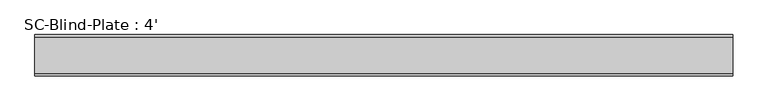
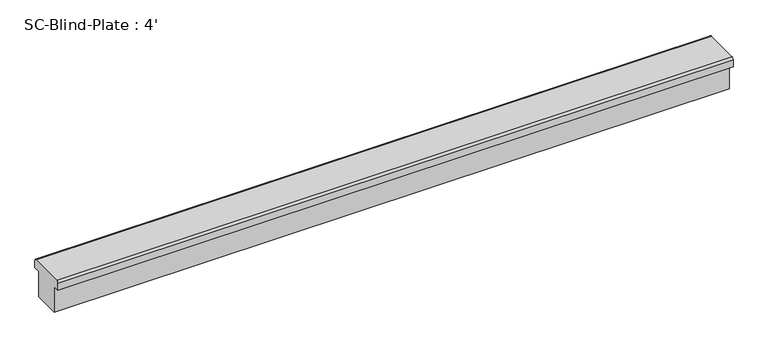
"""IFC4 building model written with IfcOpenShell, lengths in millimetres: proxy geometry, SC-Blind-Plate : 4'."""

from ifc_helpers import new_model, si_unit, point, frame, frame_2d, origin, place, context, project, spatial, polyline, circle_curve, trimmed, segment, composite_curve, outline, extrude, source, transform, mapped, element, save


def sc_blind_plate_4_fb8b6955(model_context):
    return source(origin(), model_context, "Body", "SweptSolid", [
        extrude(outline(composite_curve([segment(polyline([(22.225, 9.4401471), (-22.225, 9.4401471), (-22.225, 53.975), (-33.02, 53.975), (-33.02, 66.219198)]), True, "CONTINUOUS"), segment(trimmed(circle_curve(frame_2d((-29.3990509, 66.219198)), 3.6209491), [point((-33.02, 66.219198))], [point((-29.3990509, 69.8401471))], False, "CARTESIAN"), True, "CONTINUOUS"), segment(polyline([(-29.3990509, 69.8401471), (29.3990509, 69.8401471)]), True, "CONTINUOUS"), segment(trimmed(circle_curve(frame_2d((29.3990509, 66.219198)), 3.6209491), [point((29.3990509, 69.8401471))], [point((33.02, 66.219198))], False, "CARTESIAN"), True, "CONTINUOUS"), segment(polyline([(33.02, 66.219198), (33.02, 53.975), (22.225, 53.975), (22.225, 9.4401471)]), True, "CONTINUOUS")], self_intersect=False)), frame((-558.8, 0.0, 0.0), z_axis=(1.0, 0.0, 0.0), x_axis=(0.0, 1.0, 0.0)), (0.0, 0.0, 1.0), 1117.6),
    ])


if __name__ == "__main__":
    model = new_model("IFC4")
    model_context = context("Model", 3, world=origin())
    ifc_project = project(units=[si_unit("LENGTHUNIT", "METRE", prefix="MILLI")], contexts=[model_context])
    site = spatial("IfcSite", under=ifc_project)
    building = spatial("IfcBuilding", under=site)
    placement = place(None, origin())
    sc_blind_plate_4_shape = sc_blind_plate_4_fb8b6955(model_context)
    element("IfcBuildingElementProxy", 1, Name="SC-Blind-Plate : 4'", ObjectType="SC-Blind-Plate : 4'", at=placement, inside=building, context=model_context, shape_type="MappedRepresentation", body=[
        mapped(sc_blind_plate_4_shape, transform((0.0, 0.0, 0.0), x_axis=(1.0, 0.0, 0.0), y_axis=(0.0, 1.0, 0.0), z_axis=(0.0, 0.0, 1.0))),
    ])
    save(model, "model.ifc")
